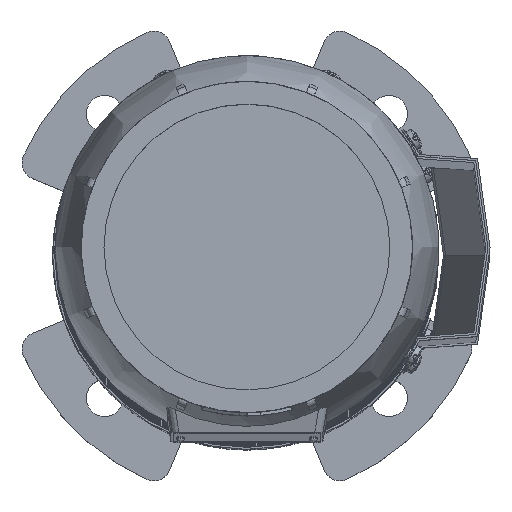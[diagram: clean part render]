
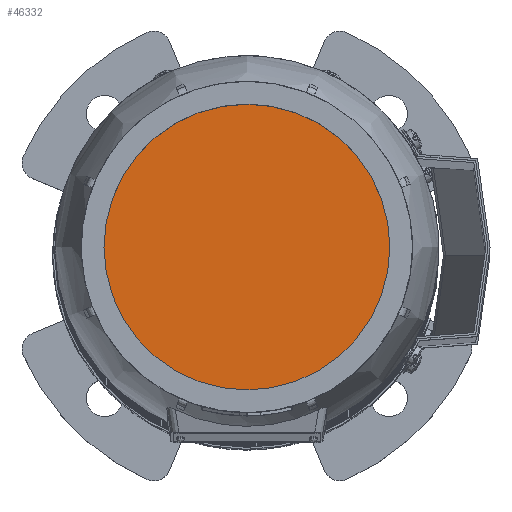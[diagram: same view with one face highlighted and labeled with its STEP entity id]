
A CAD part, top view. The second image highlights one B-rep face of the part: STEP entity #46332.
In plain terms, the highlighted planar face has unit normal (0, 0, 1) as drawn and (0, 1, 0) by its records, which use the part's own axes.
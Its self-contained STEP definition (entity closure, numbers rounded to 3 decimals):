
#9725=ORIENTED_EDGE('',*,*,#23671,.F.);
#23671=EDGE_CURVE('',#30644,#30644,#35351,.T.);
#30644=VERTEX_POINT('',#66960);
#35351=CIRCLE('',#48891,67.736);
#37473=EDGE_LOOP('',(#9725));
#40887=FACE_BOUND('',#37473,.T.);
#44319=PLANE('',#48890);
#46332=ADVANCED_FACE('',(#40887),#44319,.F.);
#48890=AXIS2_PLACEMENT_3D('',#66958,#53499,#53500);
#48891=AXIS2_PLACEMENT_3D('',#66959,#53501,#53502);
#53499=DIRECTION('',(0.,-1.,0.));
#53500=DIRECTION('',(0.,0.,-1.));
#53501=DIRECTION('',(0.,-1.,0.));
#53502=DIRECTION('',(0.,0.,-1.));
#66958=CARTESIAN_POINT('',(0.,154.,0.));
#66959=CARTESIAN_POINT('',(0.,154.,0.));
#66960=CARTESIAN_POINT('',(0.,154.,-67.736));
